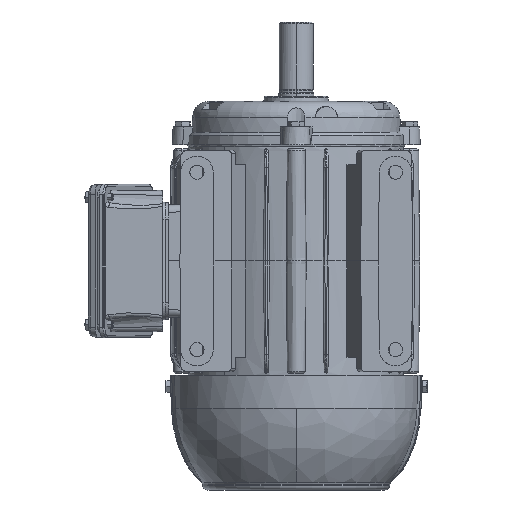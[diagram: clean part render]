
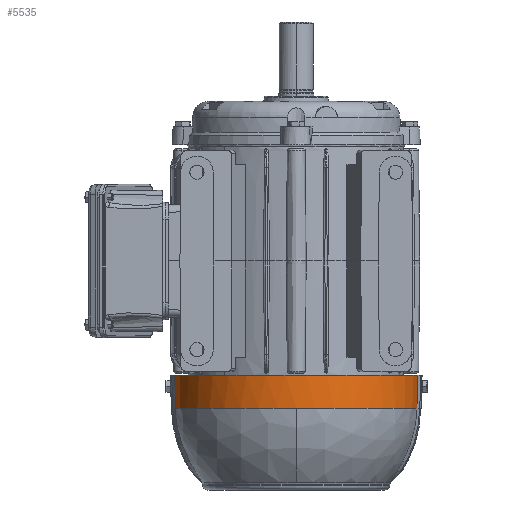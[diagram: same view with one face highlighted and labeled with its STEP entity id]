
A CAD part, front view. The second image highlights one B-rep face of the part: STEP entity #5535.
In plain terms, the highlighted conical face has half-angle 1.5 degrees and reference radius 86.139 mm.
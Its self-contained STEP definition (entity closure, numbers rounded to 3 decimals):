
#3644 = VERTEX_POINT ( 'NONE', #75547 ) ;
#4421 = CARTESIAN_POINT ( 'NONE',  ( 7.775, -13.509, 85.486 ) ) ;
#5535 = ADVANCED_FACE ( 'NONE', ( #21959 ), #14996, .T. ) ;
#6531 = DIRECTION ( 'NONE',  ( 0., 0., 1. ) ) ;
#8961 = DIRECTION ( 'NONE',  ( 1., 0., 0. ) ) ;
#10522 = DIRECTION ( 'NONE',  ( 1., 0., 0. ) ) ;
#14996 = CONICAL_SURFACE ( 'NONE', #71041, 86.139, 0.026 ) ;
#16123 = EDGE_CURVE ( 'NONE', #3644, #30517, #92186, .T. ) ;
#16457 = VERTEX_POINT ( 'NONE', #68728 ) ;
#16511 = CARTESIAN_POINT ( 'NONE',  ( 15.551, -13.515, -85.278 ) ) ;
#21327 = DIRECTION ( 'NONE',  ( -1., 0., 0. ) ) ;
#21959 = FACE_OUTER_BOUND ( 'NONE', #33825, .T. ) ;
#23017 = CARTESIAN_POINT ( 'NONE',  ( 0., -13.503, -85.693 ) ) ;
#24744 = DIRECTION ( 'NONE',  ( 0., 0., -1. ) ) ;
#27587 = CARTESIAN_POINT ( 'NONE',  ( 23.326, -13.521, 85.071 ) ) ;
#30078 = VERTEX_POINT ( 'NONE', #79368 ) ;
#30517 = VERTEX_POINT ( 'NONE', #56221 ) ;
#31263 = EDGE_CURVE ( 'NONE', #16457, #30078, #56341, .T. ) ;
#31441 = CARTESIAN_POINT ( 'NONE',  ( 23.326, -86.139, 0. ) ) ;
#33825 = EDGE_LOOP ( 'NONE', ( #39171, #63108, #81069, #46268, #91083 ) ) ;
#36337 = EDGE_CURVE ( 'NONE', #30517, #16457, #80840, .T. ) ;
#39171 = ORIENTED_EDGE ( 'NONE', *, *, #36337, .T. ) ;
#41635 = CARTESIAN_POINT ( 'NONE',  ( 0., -13.503, 85.693 ) ) ;
#46268 = ORIENTED_EDGE ( 'NONE', *, *, #89844, .F. ) ;
#50367 = AXIS2_PLACEMENT_3D ( 'NONE', #89614, #53181, #75709 ) ;
#50512 = CARTESIAN_POINT ( 'NONE',  ( 23.326, 0., 0. ) ) ;
#52856 = VERTEX_POINT ( 'NONE', #31441 ) ;
#53181 = DIRECTION ( 'NONE',  ( 1., 0., 0. ) ) ;
#53719 = CARTESIAN_POINT ( 'NONE',  ( 23.326, -13.521, -85.071 ) ) ;
#54494 = CARTESIAN_POINT ( 'NONE',  ( 23.326, 0., 0. ) ) ;
#56221 = CARTESIAN_POINT ( 'NONE',  ( 0., -13.503, 85.693 ) ) ;
#56341 = B_SPLINE_CURVE_WITH_KNOTS ( 'NONE', 3,
 ( #23017, #74032, #16511, #53719 ),
 .UNSPECIFIED., .F., .F.,
 ( 4, 4 ),
 ( 0., 0.023 ),
 .UNSPECIFIED. ) ;
#57694 = AXIS2_PLACEMENT_3D ( 'NONE', #68645, #8961, #24744 ) ;
#63108 = ORIENTED_EDGE ( 'NONE', *, *, #31263, .T. ) ;
#68645 = CARTESIAN_POINT ( 'NONE',  ( 0., 0., 0. ) ) ;
#68728 = CARTESIAN_POINT ( 'NONE',  ( 0., -13.503, -85.693 ) ) ;
#69926 = DIRECTION ( 'NONE',  ( 0., 0., -1. ) ) ;
#71041 = AXIS2_PLACEMENT_3D ( 'NONE', #50512, #21327, #6531 ) ;
#72336 = CIRCLE ( 'NONE', #50367, 86.139 ) ;
#74032 = CARTESIAN_POINT ( 'NONE',  ( 7.775, -13.509, -85.486 ) ) ;
#75547 = CARTESIAN_POINT ( 'NONE',  ( 23.326, -13.521, 85.071 ) ) ;
#75709 = DIRECTION ( 'NONE',  ( 0., 0., -1. ) ) ;
#76971 = EDGE_CURVE ( 'NONE', #52856, #30078, #72336, .T. ) ;
#78315 = CARTESIAN_POINT ( 'NONE',  ( 15.551, -13.515, 85.278 ) ) ;
#79368 = CARTESIAN_POINT ( 'NONE',  ( 23.326, -13.521, -85.071 ) ) ;
#80840 = CIRCLE ( 'NONE', #57694, 86.75 ) ;
#81069 = ORIENTED_EDGE ( 'NONE', *, *, #76971, .F. ) ;
#88267 = CIRCLE ( 'NONE', #92951, 86.139 ) ;
#89614 = CARTESIAN_POINT ( 'NONE',  ( 23.326, 0., 0. ) ) ;
#89844 = EDGE_CURVE ( 'NONE', #3644, #52856, #88267, .T. ) ;
#91083 = ORIENTED_EDGE ( 'NONE', *, *, #16123, .T. ) ;
#92186 = B_SPLINE_CURVE_WITH_KNOTS ( 'NONE', 3,
 ( #27587, #78315, #4421, #41635 ),
 .UNSPECIFIED., .F., .F.,
 ( 4, 4 ),
 ( 0., 0.023 ),
 .UNSPECIFIED. ) ;
#92951 = AXIS2_PLACEMENT_3D ( 'NONE', #54494, #10522, #69926 ) ;
